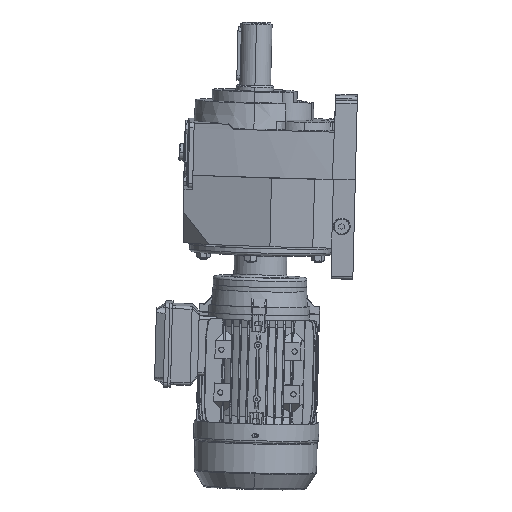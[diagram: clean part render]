
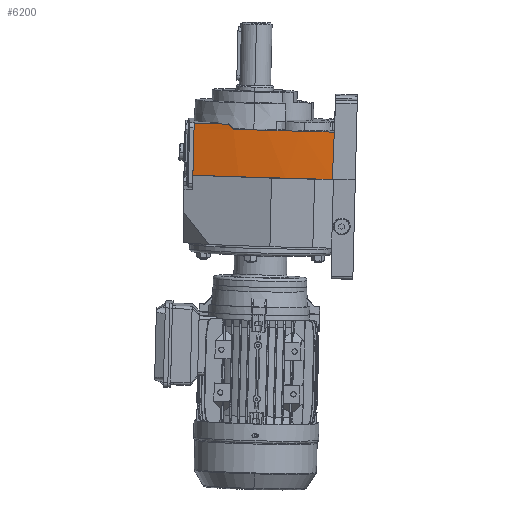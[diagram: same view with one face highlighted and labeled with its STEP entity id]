
A CAD part, left-side view. The second image highlights one B-rep face of the part: STEP entity #6200.
In plain terms, the highlighted conical face has half-angle 1 degrees and reference radius 634.722 mm.
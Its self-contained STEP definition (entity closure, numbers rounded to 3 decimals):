
#2396 = VERTEX_POINT ( 'NONE', #25276 ) ;
#6200 = ADVANCED_FACE ( 'NONE', ( #15266 ), #15290, .T. ) ;
#7318 = EDGE_CURVE ( 'NONE', #10176, #10134, #14378, .T. ) ;
#7554 = EDGE_CURVE ( 'NONE', #10134, #10257, #50464, .T. ) ;
#7629 = VERTEX_POINT ( 'NONE', #75280 ) ;
#7656 = EDGE_CURVE ( 'NONE', #26466, #26212, #50504, .T. ) ;
#7706 = EDGE_CURVE ( 'NONE', #26195, #26466, #14597, .T. ) ;
#7776 = EDGE_CURVE ( 'NONE', #7629, #26212, #16990, .T. ) ;
#7821 = EDGE_CURVE ( 'NONE', #7629, #2396, #47286, .T. ) ;
#7939 = EDGE_CURVE ( 'NONE', #10257, #26195, #47349, .T. ) ;
#7945 = EDGE_CURVE ( 'NONE', #10176, #2396, #47362, .T. ) ;
#10134 = VERTEX_POINT ( 'NONE', #53019 ) ;
#10176 = VERTEX_POINT ( 'NONE', #51215 ) ;
#10257 = VERTEX_POINT ( 'NONE', #51344 ) ;
#14378 = CIRCLE ( 'NONE', #72294, 633.797 ) ;
#14597 = LINE ( 'NONE', #68717, #14599 ) ;
#14599 = VECTOR ( 'NONE', #68692, 1000. ) ;
#15266 = FACE_OUTER_BOUND ( 'NONE', #87487, .T. ) ;
#15290 = CONICAL_SURFACE ( 'NONE', #74638, 634.722, 0.017 ) ;
#16990 = CIRCLE ( 'NONE', #72318, 634.722 ) ;
#25276 = CARTESIAN_POINT ( 'NONE',  ( -95., -89.2, 16.024 ) ) ;
#26195 = VERTEX_POINT ( 'NONE', #93675 ) ;
#26212 = VERTEX_POINT ( 'NONE', #93720 ) ;
#26466 = VERTEX_POINT ( 'NONE', #93817 ) ;
#45950 = ORIENTED_EDGE ( 'NONE', *, *, #7706, .T. ) ;
#46200 = ORIENTED_EDGE ( 'NONE', *, *, #7656, .T. ) ;
#46238 = ORIENTED_EDGE ( 'NONE', *, *, #7776, .F. ) ;
#47286 = B_SPLINE_CURVE_WITH_KNOTS ( 'NONE', 3,
 ( #69039, #69040, #69052, #69048 ),
 .UNSPECIFIED., .F., .F.,
 ( 4, 4 ),
 ( 0., 0. ),
 .UNSPECIFIED. ) ;
#47349 = B_SPLINE_CURVE_WITH_KNOTS ( 'NONE', 3,
 ( #68148, #68106, #68122, #68130 ),
 .UNSPECIFIED., .F., .F.,
 ( 4, 4 ),
 ( 0., 1. ),
 .UNSPECIFIED. ) ;
#47362 = B_SPLINE_CURVE_WITH_KNOTS ( 'NONE', 3,
 ( #68121, #68137, #68132, #68112 ),
 .UNSPECIFIED., .F., .F.,
 ( 4, 4 ),
 ( 0., 1. ),
 .UNSPECIFIED. ) ;
#50464 = B_SPLINE_CURVE_WITH_KNOTS ( 'NONE', 3,
 ( #77060, #77056, #77076, #77073 ),
 .UNSPECIFIED., .F., .F.,
 ( 4, 4 ),
 ( 0., 1. ),
 .UNSPECIFIED. ) ;
#50504 = B_SPLINE_CURVE_WITH_KNOTS ( 'NONE', 3,
 ( #75416, #75545, #75483, #75546 ),
 .UNSPECIFIED., .F., .F.,
 ( 4, 4 ),
 ( 0., 0.053 ),
 .UNSPECIFIED. ) ;
#51215 = CARTESIAN_POINT ( 'NONE',  ( -94.075, -90.125, 69. ) ) ;
#51344 = CARTESIAN_POINT ( 'NONE',  ( -82.705, 28.5, 74.5 ) ) ;
#53019 = CARTESIAN_POINT ( 'NONE',  ( -83.829, 23., 69. ) ) ;
#66611 = ORIENTED_EDGE ( 'NONE', *, *, #7939, .T. ) ;
#66622 = ORIENTED_EDGE ( 'NONE', *, *, #7821, .T. ) ;
#66674 = ORIENTED_EDGE ( 'NONE', *, *, #7554, .T. ) ;
#66709 = ORIENTED_EDGE ( 'NONE', *, *, #7945, .F. ) ;
#66758 = ORIENTED_EDGE ( 'NONE', *, *, #7318, .T. ) ;
#68106 = CARTESIAN_POINT ( 'NONE',  ( -80.235, 41.419, 74.5 ) ) ;
#68112 = CARTESIAN_POINT ( 'NONE',  ( -95., -89.2, 16.024 ) ) ;
#68121 = CARTESIAN_POINT ( 'NONE',  ( -94.075, -90.125, 69. ) ) ;
#68122 = CARTESIAN_POINT ( 'NONE',  ( -77.363, 54.26, 74.5 ) ) ;
#68130 = CARTESIAN_POINT ( 'NONE',  ( -74.094, 67., 74.5 ) ) ;
#68132 = CARTESIAN_POINT ( 'NONE',  ( -94.691, -89.509, 33.683 ) ) ;
#68137 = CARTESIAN_POINT ( 'NONE',  ( -94.383, -89.817, 51.342 ) ) ;
#68148 = CARTESIAN_POINT ( 'NONE',  ( -82.705, 28.5, 74.5 ) ) ;
#68692 = DIRECTION ( 'NONE',  ( -0.018, 0., -1. ) ) ;
#68717 = CARTESIAN_POINT ( 'NONE',  ( -74.094, 67., 74.5 ) ) ;
#68968 = DIRECTION ( 'NONE',  ( -1., 0., 0. ) ) ;
#68992 = CARTESIAN_POINT ( 'NONE',  ( 539.722, -90.5, 16. ) ) ;
#68995 = DIRECTION ( 'NONE',  ( 0., 0., -1. ) ) ;
#69039 = CARTESIAN_POINT ( 'NONE',  ( -94.999, -89.2, 16. ) ) ;
#69040 = CARTESIAN_POINT ( 'NONE',  ( -94.999, -89.2, 16.008 ) ) ;
#69048 = CARTESIAN_POINT ( 'NONE',  ( -95., -89.2, 16.024 ) ) ;
#69052 = CARTESIAN_POINT ( 'NONE',  ( -94.998, -89.2, 16.016 ) ) ;
#72294 = AXIS2_PLACEMENT_3D ( 'NONE', #75926, #75902, #75904 ) ;
#72318 = AXIS2_PLACEMENT_3D ( 'NONE', #68992, #68995, #68968 ) ;
#74638 = AXIS2_PLACEMENT_3D ( 'NONE', #86487, #86502, #86552 ) ;
#75280 = CARTESIAN_POINT ( 'NONE',  ( -94.999, -89.2, 16. ) ) ;
#75416 = CARTESIAN_POINT ( 'NONE',  ( -74.194, 67., 69. ) ) ;
#75483 = CARTESIAN_POINT ( 'NONE',  ( -74.83, 67., 33.667 ) ) ;
#75545 = CARTESIAN_POINT ( 'NONE',  ( -74.512, 67., 51.333 ) ) ;
#75546 = CARTESIAN_POINT ( 'NONE',  ( -75.149, 67., 16. ) ) ;
#75902 = DIRECTION ( 'NONE',  ( 0., 0., -1. ) ) ;
#75904 = DIRECTION ( 'NONE',  ( -1., 0., 0. ) ) ;
#75926 = CARTESIAN_POINT ( 'NONE',  ( 539.722, -90.5, 69. ) ) ;
#77056 = CARTESIAN_POINT ( 'NONE',  ( -83.46, 24.847, 70.847 ) ) ;
#77060 = CARTESIAN_POINT ( 'NONE',  ( -83.829, 23., 69. ) ) ;
#77073 = CARTESIAN_POINT ( 'NONE',  ( -82.705, 28.5, 74.5 ) ) ;
#77076 = CARTESIAN_POINT ( 'NONE',  ( -83.086, 26.68, 72.68 ) ) ;
#86487 = CARTESIAN_POINT ( 'NONE',  ( 539.722, -90.5, 16. ) ) ;
#86502 = DIRECTION ( 'NONE',  ( 0., 0., -1. ) ) ;
#86552 = DIRECTION ( 'NONE',  ( -1., 0., 0. ) ) ;
#87487 = EDGE_LOOP ( 'NONE', ( #66622, #66709, #66758, #66674, #66611, #45950, #46200, #46238 ) ) ;
#93675 = CARTESIAN_POINT ( 'NONE',  ( -74.094, 67., 74.5 ) ) ;
#93720 = CARTESIAN_POINT ( 'NONE',  ( -75.149, 67., 16. ) ) ;
#93817 = CARTESIAN_POINT ( 'NONE',  ( -74.194, 67., 69. ) ) ;
